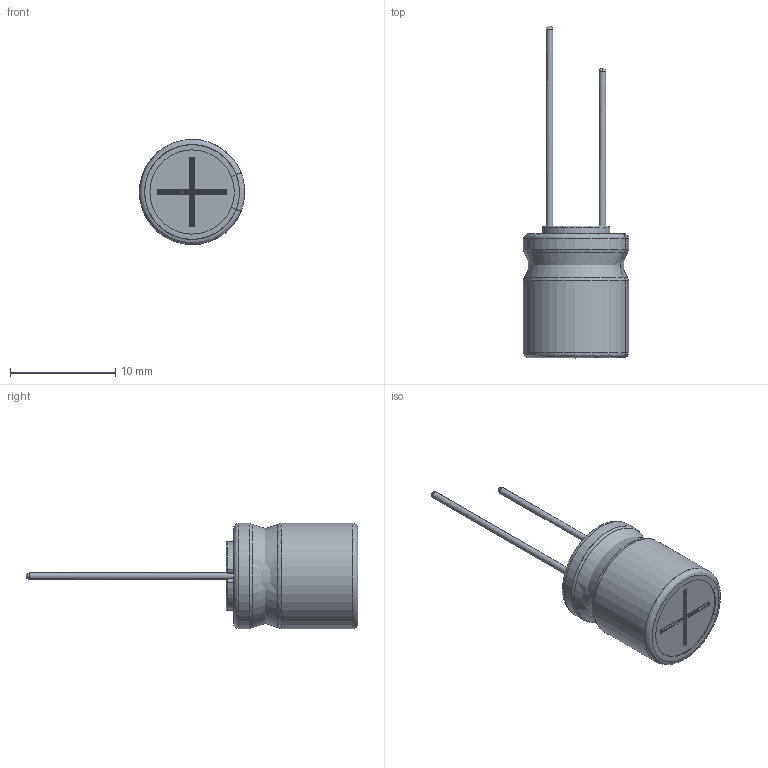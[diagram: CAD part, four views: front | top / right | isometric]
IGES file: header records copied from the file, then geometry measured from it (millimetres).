
Start section: JAMA-IS VERSION  1.0
Bounding box: 9.99 x 31.5 x 10 mm (x, y, z)
Surface area: 1408.5 mm2 (no closed solid volume)
Topology: 0 solids, 0 shells, 115 faces, 1315 edges, 1296 vertices
Faces by surface type: bspline 115
